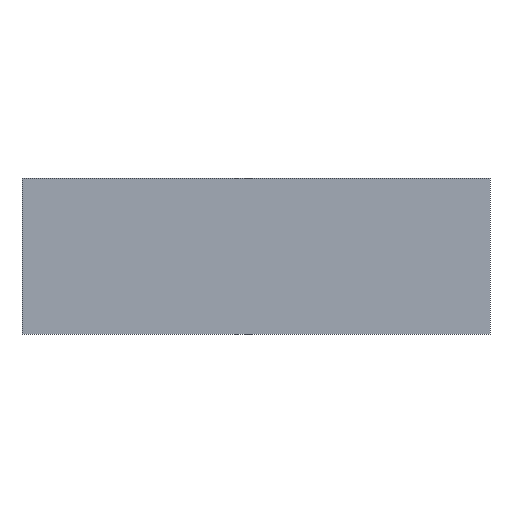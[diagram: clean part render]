
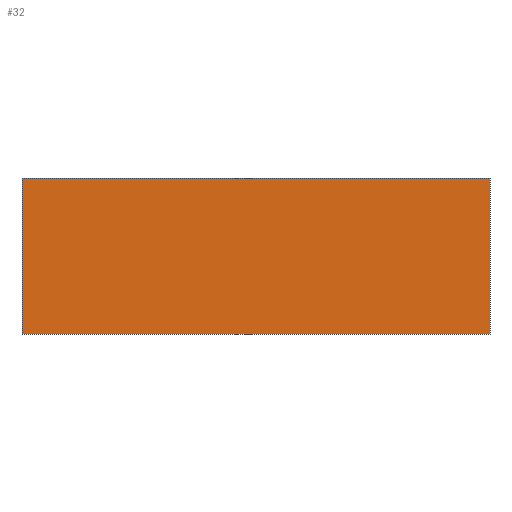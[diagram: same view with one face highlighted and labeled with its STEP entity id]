
A CAD part, front view. The second image highlights one B-rep face of the part: STEP entity #32.
In plain terms, the highlighted planar face has unit normal (0, -1, 0).
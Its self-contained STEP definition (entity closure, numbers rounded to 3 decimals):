
#1 = EDGE_LOOP ( 'NONE', ( #180, #69, #77, #112 ) ) ;
#6 = LINE ( 'NONE', #118, #144 ) ;
#10 = VECTOR ( 'NONE', #36, 1000. ) ;
#23 = EDGE_CURVE ( 'NONE', #80, #37, #54, .T. ) ;
#28 = DIRECTION ( 'NONE',  ( 0., 0., 1. ) ) ;
#32 = ADVANCED_FACE ( 'NONE', ( #111 ), #182, .F. ) ;
#36 = DIRECTION ( 'NONE',  ( 0., 0., -1. ) ) ;
#37 = VERTEX_POINT ( 'NONE', #103 ) ;
#51 = VECTOR ( 'NONE', #172, 1000. ) ;
#54 = LINE ( 'NONE', #132, #10 ) ;
#60 = AXIS2_PLACEMENT_3D ( 'NONE', #121, #190, #28 ) ;
#63 = CARTESIAN_POINT ( 'NONE',  ( -21.983, 0., -7.155 ) ) ;
#69 = ORIENTED_EDGE ( 'NONE', *, *, #184, .F. ) ;
#72 = VECTOR ( 'NONE', #224, 1000. ) ;
#77 = ORIENTED_EDGE ( 'NONE', *, *, #23, .F. ) ;
#79 = LINE ( 'NONE', #152, #72 ) ;
#80 = VERTEX_POINT ( 'NONE', #63 ) ;
#81 = DIRECTION ( 'NONE',  ( 0., 0., 1. ) ) ;
#87 = EDGE_CURVE ( 'NONE', #218, #80, #119, .T. ) ;
#103 = CARTESIAN_POINT ( 'NONE',  ( -21.983, 0., -17.155 ) ) ;
#111 = FACE_OUTER_BOUND ( 'NONE', #1, .T. ) ;
#112 = ORIENTED_EDGE ( 'NONE', *, *, #87, .F. ) ;
#117 = VERTEX_POINT ( 'NONE', #171 ) ;
#118 = CARTESIAN_POINT ( 'NONE',  ( -51.983, 0., -17.155 ) ) ;
#119 = LINE ( 'NONE', #138, #51 ) ;
#121 = CARTESIAN_POINT ( 'NONE',  ( 0., 0., 0. ) ) ;
#127 = EDGE_CURVE ( 'NONE', #117, #218, #6, .T. ) ;
#132 = CARTESIAN_POINT ( 'NONE',  ( -21.983, 0., -17.155 ) ) ;
#138 = CARTESIAN_POINT ( 'NONE',  ( -51.983, 0., -7.155 ) ) ;
#144 = VECTOR ( 'NONE', #81, 1000. ) ;
#152 = CARTESIAN_POINT ( 'NONE',  ( -51.983, 0., -17.155 ) ) ;
#171 = CARTESIAN_POINT ( 'NONE',  ( -51.983, 0., -17.155 ) ) ;
#172 = DIRECTION ( 'NONE',  ( 1., 0., 0. ) ) ;
#180 = ORIENTED_EDGE ( 'NONE', *, *, #127, .F. ) ;
#181 = CARTESIAN_POINT ( 'NONE',  ( -51.983, 0., -7.155 ) ) ;
#182 = PLANE ( 'NONE',  #60 ) ;
#184 = EDGE_CURVE ( 'NONE', #37, #117, #79, .T. ) ;
#190 = DIRECTION ( 'NONE',  ( 0., 1., 0. ) ) ;
#218 = VERTEX_POINT ( 'NONE', #181 ) ;
#224 = DIRECTION ( 'NONE',  ( -1., 0., 0. ) ) ;
